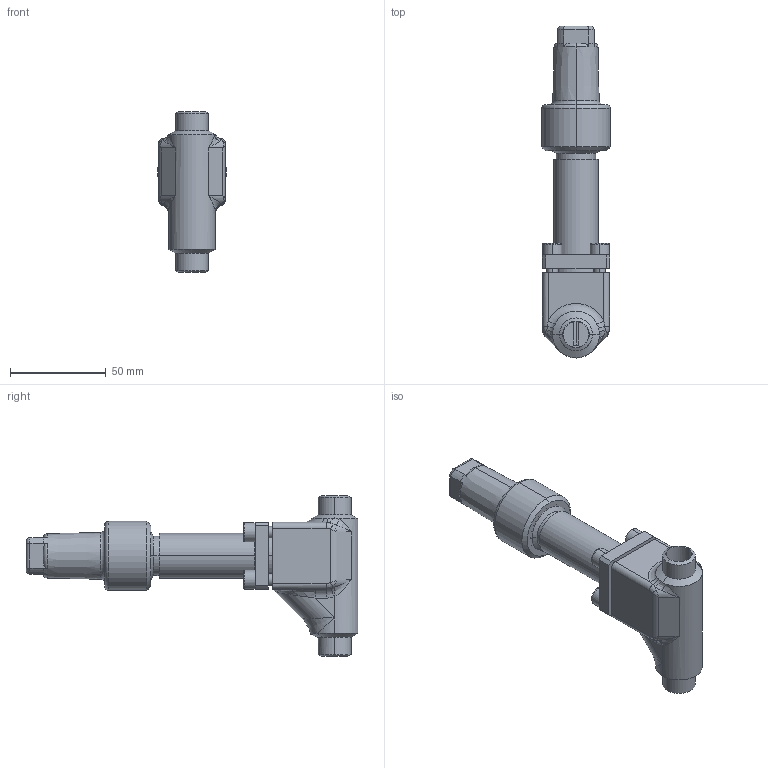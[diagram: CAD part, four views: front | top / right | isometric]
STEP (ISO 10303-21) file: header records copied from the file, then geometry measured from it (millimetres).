
FILE_DESCRIPTION (( 'STEP AP214' ), '1' );
FILE_NAME ('HRAR92310-DN010_R1_PS40.STEP', '2006-05-02T07:22:00', ( 'Herr Grams' ), ( 'AWP GmbH' ), 'SwSTEP 2.0', 'SolidWorks 2002296', '' );
FILE_SCHEMA (( 'AUTOMOTIVE_DESIGN' ));
Length unit declared in the file: millimetre
Products named in the file (6): HRAR92310-DN010_R1_PS40; AVR96310E10_Deck+Schr-DN6-15_Standard; Deckel96310E10-DN6-15_PS40_Standard; Zylinderschraube-DIN912_M 6x 18; Gehäuse96300E08-DN10_PS40_R1_Standard; Kappe96300E10_DN6-20_Standard
Assembly tree (8 placements, depth 3):
  HRAR92310-DN010_R1_PS40
    Kappe96300E10_DN6-20_Standard
    Gehäuse96300E08-DN10_PS40_R1_Standard
    AVR96310E10_Deck+Schr-DN6-15_Standard
      Zylinderschraube-DIN912_M 6x 18  x4
      Deckel96310E10-DN6-15_PS40_Standard
Bounding box: 36 x 173.2 x 84 mm (x, y, z)
Volume: 117416.5 mm3; surface area: 39127.8 mm2
Topology: 7 solids, 7 shells, 262 faces, 612 edges, 373 vertices
Faces by surface type: cylinder 92, plane 90, bspline 29, cone 27, torus 24
Entity records: 18083 total; most frequent: CARTESIAN_POINT 12808, ORIENTED_EDGE 980, DIRECTION 954, EDGE_CURVE 490, AXIS2_PLACEMENT_3D 395, VERTEX_POINT 301, EDGE_LOOP 231, ADVANCED_FACE 208
